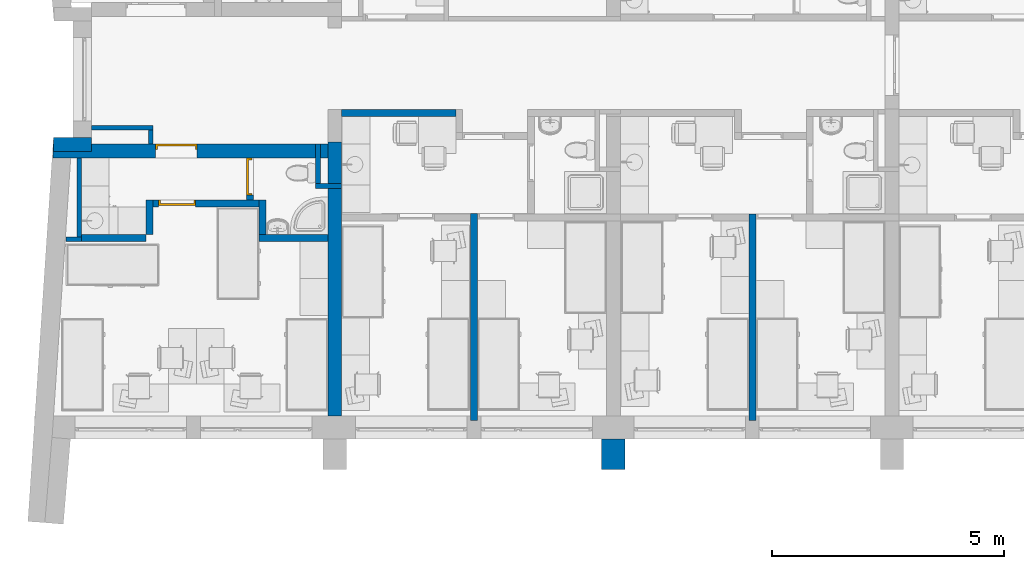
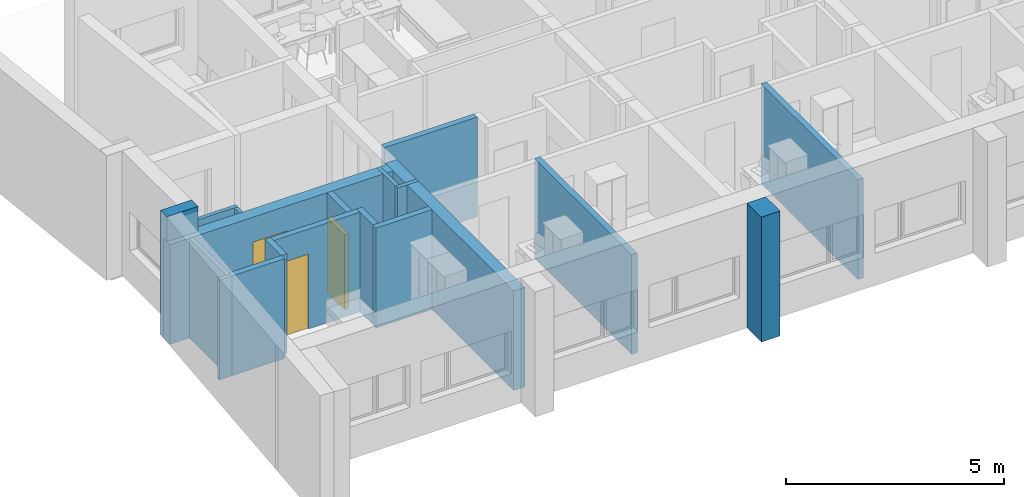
# One storey, part 2 of 152: 19 walls, 3 doors, 3 openings.
"""IFC2X3 building model written with IfcOpenShell, lengths in millimetres."""

from ifc_helpers import new_model, entity, si_unit, converted_unit, money_unit, direction, frame, origin_with_axes, place, context, subcontext, project, spatial, polyline, outline, extrude, faceted_brep, source, transform, mapped, material, material_list, layer, layer_set, layer_usage, type_object, element, fill, save


model = new_model("IFC2X3")

# Units and contexts
model_context = context("Model", 3, precision=1e-05, world=origin_with_axes(), true_north=direction((0.0, 1.0)))
body_context = subcontext(model_context, "Body", "Model", "MODEL_VIEW")
ifc_project = project(units=[si_unit("LENGTHUNIT", "METRE", prefix="MILLI"), si_unit("AREAUNIT", "SQUARE_METRE"), si_unit("VOLUMEUNIT", "CUBIC_METRE"), converted_unit("PLANEANGLEUNIT", "DEGREE", entity("IfcPlaneAngleMeasure", 0.0174532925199), si_unit("PLANEANGLEUNIT", "RADIAN"), dimensions=[0, 0, 0, 0, 0, 0, 0]), si_unit("SOLIDANGLEUNIT", "STERADIAN"), money_unit("USD"), converted_unit("TIMEUNIT", "Year", entity("IfcTimeMeasure", 31556926.0), si_unit("TIMEUNIT", "SECOND"), dimensions=[0, 0, 0, 0, 0, 0, 0]), si_unit("MASSUNIT", "GRAM"), si_unit("THERMODYNAMICTEMPERATUREUNIT", "DEGREE_CELSIUS"), si_unit("LUMINOUSINTENSITYUNIT", "LUMEN")], contexts=[model_context])

# Site, building, storey
site_placement = place(None, origin_with_axes())
site = spatial("IfcSite", under=ifc_project, at=site_placement, Name="Site", CompositionType="ELEMENT")
building_placement = place(site_placement, origin_with_axes())
building = spatial("IfcBuilding", under=site, at=building_placement, Name="Building", CompositionType="ELEMENT")
storey_placement = place(building_placement, frame((0.0, 0.0, 9500.0), z_axis=(0.0, 0.0, 1.0), x_axis=(1.0, 0.0, 0.0)))
storey = spatial("IfcBuildingStorey", under=building, at=storey_placement, Name="5KORRUS", CompositionType="ELEMENT", Elevation=9500.0)

# Walls
ifc_material_1 = material(Name="Olemasolevad seinad tellis, uus viimistlus")
ifc_layer_1 = layer(ifc_material_1, 300.0, ventilated="UNKNOWN")
ifc_layer_set_1 = layer_set([ifc_layer_1], Name="Olemasolevad seinad tellis, uus viimistlus 300")
ifc_layer_usage_1 = layer_usage(ifc_layer_set_1, "AXIS2", "POSITIVE", -300.0)
wall_type_1 = type_object("IfcWallType", Name="Olemasolevad seinad tellis, uus viimistlus 300", PredefinedType="NOTDEFINED")
wall_1_placement = place(storey_placement, frame((-54200.4261075, -13645.7452196, 0.0), z_axis=(0.0, 0.0, 1.0), x_axis=(1.0, 0.0, 0.0)))
element("IfcWallStandardCase", 1, at=wall_1_placement, inside=storey, type_object=wall_type_1, material=ifc_layer_usage_1, Name="VS1", ObjectType="VS1", context=body_context, shape_type="SweptSolid", body=[
    extrude(outline(polyline([(0.0, -300.0), (822.487950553, -300.0), (822.487950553, 0.0), (0.0, 0.0), (0.0, -300.0)])), origin_with_axes(), (0.0, 0.0, 1.0), 3500.0),
])
ifc_layer_2 = layer(ifc_material_1, 500.0, ventilated="UNKNOWN")
ifc_layer_set_2 = layer_set([ifc_layer_2], Name="Olemasolevad seinad tellis, uus viimistlus 500")
ifc_layer_usage_2 = layer_usage(ifc_layer_set_2, "AXIS2", "POSITIVE", -100.0)
wall_type_2 = type_object("IfcWallType", Name="Olemasolevad seinad tellis, uus viimistlus 500", PredefinedType="NOTDEFINED")
wall_2_placement = place(storey_placement, frame((-41990.2967033, -20796.6419407, 0.0), z_axis=(0.0, 0.0, 1.0), x_axis=(0.0, 1.0, 0.0)))
element("IfcWallStandardCase", 2, at=wall_2_placement, inside=storey, type_object=wall_type_2, material=ifc_layer_usage_2, Name="VS1", ObjectType="VS1", context=body_context, shape_type="SweptSolid", body=[
    extrude(outline(polyline([(0.0, -100.0), (657.402041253, -100.0), (657.402041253, 400.0), (0.0, 400.0), (0.0, -100.0)])), origin_with_axes(), (0.0, 0.0, 1.0), 3500.0),
])
ifc_material_2 = material(Name="UmbKipsplaat")
ifc_layer_3 = layer(ifc_material_2, 13.0, ventilated="UNKNOWN")
ifc_layer_4 = layer(ifc_material_2, 13.0, ventilated="UNKNOWN")
ifc_material_3 = material(Name="SOOJUSTUS MINERAALVILL")
ifc_layer_5 = layer(ifc_material_3, 98.0, ventilated="UNKNOWN")
ifc_layer_6 = layer(ifc_material_2, 13.0, ventilated="UNKNOWN")
ifc_layer_7 = layer(ifc_material_2, 13.0, ventilated="UNKNOWN")
ifc_layer_set_3 = layer_set([ifc_layer_3, ifc_layer_4, ifc_layer_5, ifc_layer_6, ifc_layer_7], Name="kipssein150")
ifc_layer_usage_3 = layer_usage(ifc_layer_set_3, "AXIS2", "POSITIVE", -150.0)
wall_type_3 = type_object("IfcWallType", Name="kipssein150 150", PredefinedType="NOTDEFINED")
wall_3_placement = place(storey_placement, frame((-49773.7651372, -15730.9451777, 0.0), z_axis=(0.0, 0.0, 1.0), x_axis=(1.0, 0.0, 0.0)))
element("IfcWallStandardCase", 3, at=wall_3_placement, inside=storey, type_object=wall_type_3, material=ifc_layer_usage_3, Name="SS1", ObjectType="SS1", context=body_context, shape_type="SweptSolid", body=[
    extrude(outline(polyline([(0.0, -150.0), (1483.46843392, -150.0), (1483.46843392, 0.0), (0.0, 0.0), (0.0, -150.0)])), origin_with_axes(), (0.0, 0.0, 1.0), 2800.0),
])

# Wall, opening, door
ifc_layer_usage_4 = layer_usage(ifc_layer_set_3, "AXIS2", "POSITIVE", 0.0)
wall_4_placement = place(storey_placement, frame((-49773.7651372, -14989.5106464, 0.0), z_axis=(0.0, 0.0, 1.0), x_axis=(-1.0, 0.0, 0.0)))
wall_4 = element("IfcWallStandardCase", 4, at=wall_4_placement, inside=storey, type_object=wall_type_3, material=ifc_layer_usage_4, Name="SS1", ObjectType="SS1", context=body_context, shape_type="SweptSolid", body=[
    extrude(outline(polyline([(0.0, 0.0), (2429.64126784, 0.0), (2429.64126784, 150.0), (0.0, 150.0), (0.0, 0.0)])), origin_with_axes(), (0.0, 0.0, 1.0), 2800.0),
])
opening_1_placement = place(wall_4_placement, frame((1761.78052714, 0.0, 0.0), z_axis=(0.0, 0.0, 1.0), x_axis=(1.0, 0.0, 0.0)))
opening_1 = element("IfcOpeningElement", 5, at=opening_1_placement, cuts=wall_4, Name="SU3-5", context=body_context, shape_type="SweptSolid", body=[
    extrude(outline(polyline([(-400.0, 0.0), (400.0, 0.0), (400.0, 2100.0), (-400.0, 2100.0), (-400.0, 0.0)])), frame((0.0, 150.0, 0.0), z_axis=(0.0, -1.0, 0.0), x_axis=(1.0, 0.0, 0.0)), (0.0, 0.0, 1.0), 450.0),
])
ifc_material_4 = material(Name="Background")
ifc_material_list = material_list([ifc_material_4])
door_style_1 = type_object("IfcDoorStyle", Name="Door 19", ConstructionType="NOTDEFINED", OperationType="SINGLE_SWING_RIGHT", ParameterTakesPrecedence=False, Sizeable=False)
shared_shape_1 = source(origin_with_axes(), body_context, "Body", "Brep", [
    faceted_brep([(-360.0, -75.0, 0.0), (-360.0, -75.0, 2060.0), (-360.0, -150.0, 2060.0), (-360.0, -150.0, 0.0), (-372.0, -75.0, 2060.0), (-372.0, -75.0, 0.0), (-372.0, -35.0, 2060.0), (-400.0, -35.0, 2060.0), (-400.0, -150.0, 2060.0), (-400.0, -150.0, 0.0), (-400.0, -35.0, 0.0), (-372.0, -35.0, 0.0)], [[[0, 1, 2, 3]], [[4, 1, 0, 5]], [[4, 6, 7, 8, 2, 1]], [[2, 8, 9, 3]], [[5, 0, 3, 9, 10, 11]], [[6, 4, 5, 11]], [[6, 11, 10, 7]], [[9, 8, 7, 10]]]),
    faceted_brep([(372.0, -75.0, 2060.0), (360.0, -75.0, 2060.0), (360.0, -150.0, 2060.0), (400.0, -150.0, 2060.0), (400.0, -35.0, 2060.0), (372.0, -35.0, 2060.0), (372.0, -75.0, 0.0), (360.0, -75.0, 0.0), (360.0, -150.0, 0.0), (400.0, -150.0, 0.0), (400.0, -35.0, 0.0), (372.0, -35.0, 0.0)], [[[0, 1, 2, 3, 4, 5]], [[1, 0, 6, 7]], [[1, 7, 8, 2]], [[2, 8, 9, 3]], [[3, 9, 10, 4]], [[11, 5, 4, 10]], [[0, 5, 11, 6]], [[6, 11, 10, 9, 8, 7]]]),
    faceted_brep([(-372.0, -35.0, 2072.0), (-372.0, -35.0, 2060.0), (-400.0, -35.0, 2060.0), (-400.0, -35.0, 2100.0), (400.0, -35.0, 2100.0), (400.0, -35.0, 2060.0), (372.0, -35.0, 2060.0), (372.0, -35.0, 2072.0), (-372.0, -75.0, 2072.0), (-372.0, -75.0, 2060.0), (-360.0, -75.0, 2060.0), (-360.0, -150.0, 2060.0), (-400.0, -150.0, 2060.0), (-400.0, -150.0, 2100.0), (400.0, -150.0, 2100.0), (400.0, -150.0, 2060.0), (372.0, -75.0, 2060.0), (360.0, -150.0, 2060.0), (360.0, -75.0, 2060.0), (372.0, -75.0, 2072.0)], [[[0, 1, 2, 3, 4, 5, 6, 7]], [[1, 0, 8, 9]], [[9, 10, 11, 12, 2, 1]], [[12, 13, 3, 2]], [[13, 14, 4, 3]], [[14, 15, 5, 4]], [[16, 6, 5, 15, 17, 18]], [[7, 6, 16, 19]], [[0, 7, 19, 8]], [[16, 18, 10, 9, 8, 19]], [[10, 18, 17, 11]], [[15, 14, 13, 12, 11, 17]]]),
    faceted_brep([(372.0, -35.0, 0.0), (372.0, -75.0, 0.0), (-372.0, -75.0, 0.0), (-372.0, -35.0, 0.0), (372.0, -35.0, 2072.0), (372.0, -75.0, 2072.0), (-372.0, -75.0, 2072.0), (-372.0, -35.0, 2072.0)], [[[0, 1, 2, 3]], [[4, 5, 1, 0]], [[1, 5, 6, 2]], [[3, 2, 6, 7]], [[0, 3, 7, 4]], [[7, 6, 5, 4]]]),
])
door_1_placement = place(opening_1_placement, frame((-400.0, 0.0, 0.0), z_axis=(0.0, 0.0, 1.0), x_axis=(1.0, 0.0, 0.0)))
door_1 = element("IfcDoor", 6, at=door_1_placement, inside=storey, type_object=door_style_1, material=ifc_material_list, Name="SU3-5", ObjectType="Toa uks", OverallHeight=2100.0, OverallWidth=800.0, context=body_context, shape_type="MappedRepresentation", body=[
    mapped(shared_shape_1, transform((400.0, 150.0, 0.0))),
])
fill(opening_1, door_1)

# Walls
ifc_layer_usage_5 = layer_usage(ifc_layer_set_3, "AXIS2", "POSITIVE", 0.0)
wall_5_placement = place(storey_placement, frame((-45533.8623684, -13039.2398994, 0.0), z_axis=(0.0, 0.0, 1.0), x_axis=(-1.0, 0.0, 0.0)))
element("IfcWallStandardCase", 7, at=wall_5_placement, inside=storey, type_object=wall_type_3, material=ifc_layer_usage_5, Name="SS1", ObjectType="SS1", context=body_context, shape_type="SweptSolid", body=[
    extrude(outline(polyline([(0.0, 0.0), (2456.43433493, 0.0), (2456.43433493, 150.0), (0.0, 150.0), (0.0, 0.0)])), origin_with_axes(), (0.0, 0.0, 1.0), 2800.0),
])
ifc_layer_usage_6 = layer_usage(ifc_layer_set_3, "AXIS2", "POSITIVE", 0.0)
wall_6_placement = place(storey_placement, frame((-45070.2967033, -19739.2398994, 0.0), z_axis=(0.0, 0.0, 1.0), x_axis=(0.0, 1.0, 0.0)))
element("IfcWallStandardCase", 8, at=wall_6_placement, inside=storey, type_object=wall_type_3, material=ifc_layer_usage_6, Name="SS1", ObjectType="SS1", context=body_context, shape_type="SweptSolid", body=[
    extrude(outline(polyline([(0.0, 0.0), (4458.76827323, 0.0), (4458.76827323, 150.0), (0.0, 150.0), (0.0, 0.0)])), origin_with_axes(), (0.0, 0.0, 1.0), 2800.0),
])
ifc_layer_usage_7 = layer_usage(ifc_layer_set_3, "AXIS2", "POSITIVE", 0.0)
wall_7_placement = place(storey_placement, frame((-52203.4064051, -15738.0262806, 0.0), z_axis=(0.0, 0.0, 1.0), x_axis=(-1.0, 0.0, 0.0)))
element("IfcWallStandardCase", 9, at=wall_7_placement, inside=storey, type_object=wall_type_3, material=ifc_layer_usage_7, Name="SS1", ObjectType="SS1", context=body_context, shape_type="SweptSolid", body=[
    extrude(outline(polyline([(0.0, 0.0), (1390.08570546, 0.0), (1390.08570546, 150.0), (0.0, 150.0), (0.0, 0.0)])), origin_with_axes(), (0.0, 0.0, 1.0), 2800.0),
])
ifc_layer_usage_8 = layer_usage(ifc_layer_set_3, "AXIS2", "POSITIVE", 0.0)
wall_8_placement = place(storey_placement, frame((-39070.2967033, -19739.2398994, 0.0), z_axis=(0.0, 0.0, 1.0), x_axis=(0.0, 1.0, 0.0)))
element("IfcWallStandardCase", 10, at=wall_8_placement, inside=storey, type_object=wall_type_3, material=ifc_layer_usage_8, Name="SS1", ObjectType="SS1", context=body_context, shape_type="SweptSolid", body=[
    extrude(outline(polyline([(0.0, 0.0), (4450.0, 0.0), (4450.0, 150.0), (0.0, 150.0), (0.0, 0.0)])), origin_with_axes(), (0.0, 0.0, 1.0), 2800.0),
])
ifc_layer_usage_9 = layer_usage(ifc_layer_set_3, "AXIS2", "POSITIVE", -150.0)
wall_9_placement = place(storey_placement, frame((-49773.7651372, -15730.9451777, 0.0), z_axis=(0.0, 0.0, 1.0), x_axis=(0.0, 1.0, 0.0)))
element("IfcWallStandardCase", 11, at=wall_9_placement, inside=storey, type_object=wall_type_3, material=ifc_layer_usage_9, Name="SS1", ObjectType="SS1", context=body_context, shape_type="SweptSolid", body=[
    extrude(outline(polyline([(0.0, -150.0), (741.434531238, -150.0), (741.434531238, 0.0), (0.0, 0.0), (0.0, -150.0)])), origin_with_axes(), (0.0, 0.0, 1.0), 2800.0),
])
ifc_layer_usage_10 = layer_usage(ifc_layer_set_3, "AXIS2", "POSITIVE", -150.0)
wall_10_placement = place(storey_placement, frame((-52203.4064051, -15738.0262806, 0.0), z_axis=(0.0, 0.0, 1.0), x_axis=(0.0, 1.0, 0.0)))
element("IfcWallStandardCase", 12, at=wall_10_placement, inside=storey, type_object=wall_type_3, material=ifc_layer_usage_10, Name="SS1", ObjectType="SS1", context=body_context, shape_type="SweptSolid", body=[
    extrude(outline(polyline([(0.0, -150.0), (748.515634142, -150.0), (748.515634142, 0.0), (0.0, 0.0), (0.0, -150.0)])), origin_with_axes(), (0.0, 0.0, 1.0), 2800.0),
])

# Wall, opening, door
ifc_layer_usage_11 = layer_usage(ifc_layer_set_3, "AXIS2", "POSITIVE", 0.0)
wall_11_placement = place(storey_placement, frame((-50040.4499069, -14087.3375674, 0.0), z_axis=(0.0, 0.0, 1.0), x_axis=(0.0, -1.0, 0.0)))
wall_11 = element("IfcWallStandardCase", 13, at=wall_11_placement, inside=storey, type_object=wall_type_3, material=ifc_layer_usage_11, Name="SS1", ObjectType="SS1", context=body_context, shape_type="SweptSolid", body=[
    extrude(outline(polyline([(0.0, 0.0), (902.173079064, 0.0), (902.173079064, 150.0), (0.0, 150.0), (0.0, 0.0)])), origin_with_axes(), (0.0, 0.0, 1.0), 2800.0),
])
opening_2_placement = place(wall_11_placement, frame((400.0, 0.0, 0.0), z_axis=(0.0, 0.0, 1.0), x_axis=(1.0, 0.0, 0.0)))
opening_2 = element("IfcOpeningElement", 14, at=opening_2_placement, cuts=wall_11, Name="SU3-3", context=body_context, shape_type="SweptSolid", body=[
    extrude(outline(polyline([(-400.0, -2100.0), (400.0, -2100.0), (400.0, 0.0), (-400.0, 0.0), (-400.0, -2100.0)])), frame((0.0, 150.0, 0.0), z_axis=(0.0, 1.0, 0.0), x_axis=(1.0, 0.0, 0.0)), (0.0, 0.0, -1.0), 450.0),
])
door_style_2 = type_object("IfcDoorStyle", Name="Door 19", ConstructionType="NOTDEFINED", OperationType="SINGLE_SWING_LEFT", ParameterTakesPrecedence=False, Sizeable=False)
shared_shape_2 = source(origin_with_axes(), body_context, "Body", "Brep", [
    faceted_brep([(360.0, -40.0, 0.0), (360.0, -115.0, 0.0), (360.0, -115.0, 2060.0), (360.0, -40.0, 2060.0), (372.0, -40.0, 0.0), (372.0, 0.0, 0.0), (400.0, 0.0, 0.0), (400.0, -115.0, 0.0), (400.0, -115.0, 2060.0), (372.0, -40.0, 2060.0), (400.0, 0.0, 2060.0), (372.0, 0.0, 2060.0)], [[[0, 1, 2, 3]], [[4, 5, 6, 7, 1, 0]], [[2, 1, 7, 8]], [[9, 3, 2, 8, 10, 11]], [[9, 4, 0, 3]], [[11, 5, 4, 9]], [[11, 10, 6, 5]], [[7, 6, 10, 8]]]),
    faceted_brep([(-372.0, -40.0, 2060.0), (-372.0, 0.0, 2060.0), (-400.0, 0.0, 2060.0), (-400.0, -115.0, 2060.0), (-360.0, -115.0, 2060.0), (-360.0, -40.0, 2060.0), (-372.0, -40.0, 0.0), (-372.0, 0.0, 0.0), (-400.0, 0.0, 0.0), (-400.0, -115.0, 0.0), (-360.0, -115.0, 0.0), (-360.0, -40.0, 0.0)], [[[0, 1, 2, 3, 4, 5]], [[0, 6, 7, 1]], [[7, 8, 2, 1]], [[3, 2, 8, 9]], [[4, 3, 9, 10]], [[5, 4, 10, 11]], [[5, 11, 6, 0]], [[6, 11, 10, 9, 8, 7]]]),
    faceted_brep([(372.0, 0.0, 2072.0), (-372.0, 0.0, 2072.0), (-372.0, 0.0, 2060.0), (-400.0, 0.0, 2060.0), (-400.0, 0.0, 2100.0), (400.0, 0.0, 2100.0), (400.0, 0.0, 2060.0), (372.0, 0.0, 2060.0), (372.0, -40.0, 2072.0), (-372.0, -40.0, 2072.0), (-372.0, -40.0, 2060.0), (-360.0, -40.0, 2060.0), (-360.0, -115.0, 2060.0), (-400.0, -115.0, 2060.0), (-400.0, -115.0, 2100.0), (400.0, -115.0, 2100.0), (400.0, -115.0, 2060.0), (372.0, -40.0, 2060.0), (360.0, -115.0, 2060.0), (360.0, -40.0, 2060.0)], [[[0, 1, 2, 3, 4, 5, 6, 7]], [[0, 8, 9, 1]], [[1, 9, 10, 2]], [[10, 11, 12, 13, 3, 2]], [[14, 4, 3, 13]], [[15, 5, 4, 14]], [[16, 6, 5, 15]], [[17, 7, 6, 16, 18, 19]], [[7, 17, 8, 0]], [[10, 9, 8, 17, 19, 11]], [[19, 18, 12, 11]], [[13, 12, 18, 16, 15, 14]]]),
    faceted_brep([(-372.0, 0.0, 0.0), (372.0, 0.0, 0.0), (372.0, -40.0, 0.0), (-372.0, -40.0, 0.0), (-372.0, 0.0, 2072.0), (372.0, 0.0, 2072.0), (372.0, -40.0, 2072.0), (-372.0, -40.0, 2072.0)], [[[0, 1, 2, 3]], [[0, 4, 5, 1]], [[1, 5, 6, 2]], [[3, 2, 6, 7]], [[4, 0, 3, 7]], [[5, 4, 7, 6]]]),
])
door_2_placement = place(opening_2_placement, frame((400.0, 0.0, 0.0), z_axis=(0.0, 0.0, 1.0), x_axis=(-1.0, 0.0, 0.0)))
door_2 = element("IfcDoor", 15, at=door_2_placement, inside=storey, type_object=door_style_2, material=ifc_material_list, Name="SU3-3", ObjectType="WC-uks", OverallHeight=2100.0, OverallWidth=800.0, context=body_context, shape_type="MappedRepresentation", body=[
    mapped(shared_shape_2, transform((400.0, 0.0, 0.0))),
])
fill(opening_2, door_2)

# Wall
ifc_material_5 = material(Name="Olemasolevad seinad tellis, uus viimistlus")
ifc_layer_8 = layer(ifc_material_5, 300.0, ventilated="UNKNOWN")
ifc_layer_set_4 = layer_set([ifc_layer_8], Name="Olemasolevad seinad tellis, uus viimistlus  300")
ifc_layer_usage_12 = layer_usage(ifc_layer_set_4, "AXIS2", "POSITIVE", 0.0)
wall_type_4 = type_object("IfcWallType", Name="Olemasolevad seinad tellis, uus viimistlus  300", PredefinedType="NOTDEFINED")
wall_12_placement = place(storey_placement, frame((-47990.2967033, -19639.2398994, 0.0), z_axis=(0.0, 0.0, 1.0), x_axis=(0.0, 1.0, 0.0)))
element("IfcWallStandardCase", 16, at=wall_12_placement, inside=storey, type_object=wall_type_4, material=ifc_layer_usage_12, Name="KS1", ObjectType="KS1", context=body_context, shape_type="SweptSolid", body=[
    extrude(outline(polyline([(0.0, 0.0), (5900.0, 0.0), (5900.0, 300.0), (0.0, 300.0), (0.0, 0.0)])), origin_with_axes(), (0.0, 0.0, 1.0), 2800.0),
])

# Wall, opening, door
ifc_layer_usage_13 = layer_usage(ifc_layer_set_4, "AXIS2", "POSITIVE", -300.0)
wall_13_placement = place(storey_placement, frame((-54209.8419994, -13787.3375674, 0.0), z_axis=(0.0, 0.0, 1.0), x_axis=(1.0, 0.0, 0.0)))
wall_13 = element("IfcWallStandardCase", 17, at=wall_13_placement, inside=storey, type_object=wall_type_4, material=ifc_layer_usage_13, Name="KS1", ObjectType="KS1", context=body_context, shape_type="SweptSolid", body=[
    extrude(outline(polyline([(0.0, -300.0), (6219.54529607, -300.0), (6219.54529607, 0.0), (0.0, 0.0), (0.0, -300.0)])), origin_with_axes(), (0.0, 0.0, 1.0), 2800.0),
])
opening_3_placement = place(wall_13_placement, frame((2656.43559431, 0.0, 0.0), z_axis=(0.0, 0.0, 1.0), x_axis=(1.0, 0.0, 0.0)))
opening_3 = element("IfcOpeningElement", 18, at=opening_3_placement, cuts=wall_13, Name="SU2-6", context=body_context, shape_type="SweptSolid", body=[
    extrude(outline(polyline([(-450.0, -2100.0), (450.0, -2100.0), (450.0, 0.0), (-450.0, 0.0), (-450.0, -2100.0)])), frame((0.0, -300.0, 0.0), z_axis=(0.0, -1.0, 0.0), x_axis=(-1.0, 0.0, 0.0)), (0.0, 0.0, -1.0), 900.0),
])
door_style_3 = type_object("IfcDoorStyle", Name="Door 19", ConstructionType="NOTDEFINED", OperationType="SINGLE_SWING_LEFT", ParameterTakesPrecedence=False, Sizeable=False)
shared_shape_3 = source(origin_with_axes(), body_context, "Body", "Brep", [
    faceted_brep([(410.0, -40.0, 0.0), (410.0, -115.0, 0.0), (410.0, -115.0, 2060.0), (410.0, -40.0, 2060.0), (422.0, -40.0, 0.0), (422.0, 0.0, 0.0), (450.0, 0.0, 0.0), (450.0, -115.0, 0.0), (450.0, -115.0, 2060.0), (422.0, -40.0, 2060.0), (450.0, 0.0, 2060.0), (422.0, 0.0, 2060.0)], [[[0, 1, 2, 3]], [[4, 5, 6, 7, 1, 0]], [[2, 1, 7, 8]], [[9, 3, 2, 8, 10, 11]], [[9, 4, 0, 3]], [[11, 5, 4, 9]], [[11, 10, 6, 5]], [[7, 6, 10, 8]]]),
    faceted_brep([(-422.0, -40.0, 2060.0), (-422.0, 0.0, 2060.0), (-450.0, 0.0, 2060.0), (-450.0, -115.0, 2060.0), (-410.0, -115.0, 2060.0), (-410.0, -40.0, 2060.0), (-422.0, -40.0, 0.0), (-422.0, 0.0, 0.0), (-450.0, 0.0, 0.0), (-450.0, -115.0, 0.0), (-410.0, -115.0, 0.0), (-410.0, -40.0, 0.0)], [[[0, 1, 2, 3, 4, 5]], [[0, 6, 7, 1]], [[7, 8, 2, 1]], [[3, 2, 8, 9]], [[4, 3, 9, 10]], [[5, 4, 10, 11]], [[5, 11, 6, 0]], [[6, 11, 10, 9, 8, 7]]]),
    faceted_brep([(422.0, 0.0, 2072.0), (-422.0, 0.0, 2072.0), (-422.0, 0.0, 2060.0), (-450.0, 0.0, 2060.0), (-450.0, 0.0, 2100.0), (450.0, 0.0, 2100.0), (450.0, 0.0, 2060.0), (422.0, 0.0, 2060.0), (422.0, -40.0, 2072.0), (-422.0, -40.0, 2072.0), (-422.0, -40.0, 2060.0), (-410.0, -40.0, 2060.0), (-410.0, -115.0, 2060.0), (-450.0, -115.0, 2060.0), (-450.0, -115.0, 2100.0), (450.0, -115.0, 2100.0), (450.0, -115.0, 2060.0), (422.0, -40.0, 2060.0), (410.0, -115.0, 2060.0), (410.0, -40.0, 2060.0)], [[[0, 1, 2, 3, 4, 5, 6, 7]], [[0, 8, 9, 1]], [[1, 9, 10, 2]], [[10, 11, 12, 13, 3, 2]], [[14, 4, 3, 13]], [[15, 5, 4, 14]], [[16, 6, 5, 15]], [[17, 7, 6, 16, 18, 19]], [[7, 17, 8, 0]], [[10, 9, 8, 17, 19, 11]], [[19, 18, 12, 11]], [[13, 12, 18, 16, 15, 14]]]),
    faceted_brep([(-422.0, 0.0, 0.0), (422.0, 0.0, 0.0), (422.0, -40.0, 0.0), (-422.0, -40.0, 0.0), (-422.0, 0.0, 2072.0), (422.0, 0.0, 2072.0), (422.0, -40.0, 2072.0), (-422.0, -40.0, 2072.0)], [[[0, 1, 2, 3]], [[0, 4, 5, 1]], [[1, 5, 6, 2]], [[3, 2, 6, 7]], [[4, 0, 3, 7]], [[5, 4, 7, 6]]]),
])
door_3_placement = place(opening_3_placement, frame((-450.0, 0.0, 0.0), z_axis=(0.0, 0.0, 1.0), x_axis=(1.0, 0.0, 0.0)))
door_3 = element("IfcDoor", 19, at=door_3_placement, inside=storey, type_object=door_style_3, material=ifc_material_list, Name="SU2-6", ObjectType="Korteri välisuks", OverallHeight=2100.0, OverallWidth=900.0, context=body_context, shape_type="MappedRepresentation", body=[
    mapped(shared_shape_3, transform((450.0, 0.0, 0.0))),
])
fill(opening_3, door_3)

# Walls
ifc_material_6 = material(Name="krohv")
ifc_layer_9 = layer(ifc_material_6, 2.0, ventilated="UNKNOWN")
ifc_layer_10 = layer(ifc_material_6, 10.0, ventilated="UNKNOWN")
ifc_material_7 = material(Name="Kergplokk")
ifc_layer_11 = layer(ifc_material_7, 76.0, ventilated="UNKNOWN")
ifc_layer_12 = layer(ifc_material_6, 10.0, ventilated="UNKNOWN")
ifc_layer_13 = layer(ifc_material_6, 2.0, ventilated="UNKNOWN")
ifc_layer_set_5 = layer_set([ifc_layer_9, ifc_layer_10, ifc_layer_11, ifc_layer_12, ifc_layer_13], Name="Kergplokk Bauroc 100")
ifc_layer_usage_14 = layer_usage(ifc_layer_set_5, "AXIS2", "POSITIVE", 0.0)
wall_type_5 = type_object("IfcWallType", Name="Kergplokk Bauroc 100 100", PredefinedType="NOTDEFINED")
wall_14_placement = place(storey_placement, frame((-53377.938157, -13487.3375674, 0.0), z_axis=(0.0, 0.0, 1.0), x_axis=(1.0, 0.0, 0.0)))
element("IfcWallStandardCase", 20, at=wall_14_placement, inside=storey, type_object=wall_type_5, material=ifc_layer_usage_14, Name="SS2", ObjectType="SS2", context=body_context, shape_type="SweptSolid", body=[
    extrude(outline(polyline([(0.0, 0.0), (1324.53175192, 0.0), (1324.53175192, 100.0), (0.0, 100.0), (0.0, 0.0)])), origin_with_axes(), (0.0, 0.0, 1.0), 2750.0),
])
ifc_layer_usage_15 = layer_usage(ifc_layer_set_5, "AXIS2", "POSITIVE", -100.0)
wall_15_placement = place(storey_placement, frame((-52053.4064051, -13487.3375674, 0.0), z_axis=(0.0, 0.0, 1.0), x_axis=(0.0, -1.0, 0.0)))
element("IfcWallStandardCase", 21, at=wall_15_placement, inside=storey, type_object=wall_type_5, material=ifc_layer_usage_15, Name="SS2", ObjectType="SS2", context=body_context, shape_type="SweptSolid", body=[
    extrude(outline(polyline([(0.0, -100.0), (293.50271178, -100.0), (293.50271178, 0.0), (0.0, 0.0), (0.0, -100.0)])), origin_with_axes(), (0.0, 0.0, 1.0), 2750.0),
])
ifc_layer_usage_16 = layer_usage(ifc_layer_set_5, "AXIS2", "POSITIVE", 0.0)
wall_16_placement = place(storey_placement, frame((-53593.4921105, -15788.0262806, 0.0), z_axis=(0.0, 0.0, 1.0), x_axis=(-1.0, 0.0, 0.0)))
element("IfcWallStandardCase", 22, at=wall_16_placement, inside=storey, type_object=wall_type_5, material=ifc_layer_usage_16, Name="SS2", ObjectType="SS2", context=body_context, shape_type="SweptSolid", body=[
    extrude(outline(polyline([(0.0, 0.0), (338.945217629, 0.0), (338.945217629, 100.0), (0.0, 100.0), (0.0, 0.0)])), origin_with_axes(), (0.0, 0.0, 1.0), 2800.0),
])
ifc_layer_usage_17 = layer_usage(ifc_layer_set_5, "AXIS2", "POSITIVE", -100.0)
wall_17_placement = place(storey_placement, frame((-53593.4921105, -14087.3375674, 0.0), z_axis=(0.0, 0.0, 1.0), x_axis=(0.0, -1.0, 0.0)))
element("IfcWallStandardCase", 23, at=wall_17_placement, inside=storey, type_object=wall_type_5, material=ifc_layer_usage_17, Name="SS2", ObjectType="SS2", context=body_context, shape_type="SweptSolid", body=[
    extrude(outline(polyline([(0.0, -100.0), (1700.68871321, -100.0), (1700.68871321, 0.0), (0.0, 0.0), (0.0, -100.0)])), origin_with_axes(), (0.0, 0.0, 1.0), 2800.0),
])
ifc_layer_usage_18 = layer_usage(ifc_layer_set_5, "AXIS2", "POSITIVE", -100.0)
wall_18_placement = place(storey_placement, frame((-48550.2967033, -14739.0262806, 0.0), z_axis=(0.0, 0.0, 1.0), x_axis=(0.0, 1.0, 0.0)))
element("IfcWallStandardCase", 24, at=wall_18_placement, inside=storey, type_object=wall_type_5, material=ifc_layer_usage_18, Name="SS2", ObjectType="SS2", context=body_context, shape_type="SweptSolid", body=[
    extrude(outline(polyline([(0.0, -100.0), (951.688713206, -100.0), (951.688713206, 0.0), (0.0, 0.0), (0.0, -100.0)])), origin_with_axes(), (0.0, 0.0, 1.0), 2800.0),
])
ifc_layer_usage_19 = layer_usage(ifc_layer_set_5, "AXIS2", "POSITIVE", 0.0)
wall_19_placement = place(storey_placement, frame((-48550.2967033, -14739.0262806, 0.0), z_axis=(0.0, 0.0, 1.0), x_axis=(1.0, 0.0, 0.0)))
element("IfcWallStandardCase", 25, at=wall_19_placement, inside=storey, type_object=wall_type_5, material=ifc_layer_usage_19, Name="SS2", ObjectType="SS2", context=body_context, shape_type="SweptSolid", body=[
    extrude(outline(polyline([(0.0, 0.0), (560.0, 0.0), (560.0, 100.0), (0.0, 100.0), (0.0, 0.0)])), origin_with_axes(), (0.0, 0.0, 1.0), 2800.0),
])

save(model, "model.ifc")
